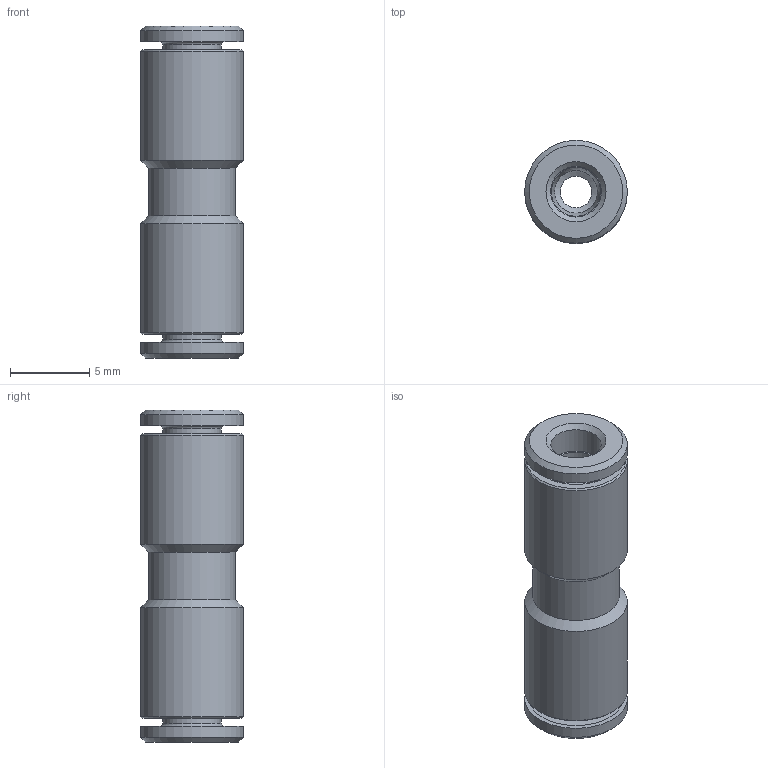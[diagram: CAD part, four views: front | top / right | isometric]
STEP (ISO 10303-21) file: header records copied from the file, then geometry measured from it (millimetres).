
FILE_DESCRIPTION(('Bauteilbeschreibung','HiCAD-Model','HiCAD-STEP-TRANSLATION','Bauteilbeschreibung'),'2;1');
FILE_NAME('B:/ABGLEICH/ZEICHNUNGEN/STEP FÜR INTERNET/STEP/200300_IPSO_03_3_3.STP','2011-07-18T09:03:33+00:00',('Konstrukteur'),('Konstrukteur Firma GmbH'),' HiCAD neXt 2008, Step 3.1.1401.2J ','HiCAD neXt 2008','confidential');
FILE_SCHEMA(('AUTOMOTIVE_DESIGN { 1 2 10303 214 0 1 1 1 }'));
Length unit declared in the file: millimetre
Products named in the file (4): A00300_IPSO_03_3_3; DR3; DR30; R200300_N
Assembly tree (3 placements, depth 2):
  A00300_IPSO_03_3_3
    DR3
    DR30
    R200300_N
Bounding box: 6.5 x 6.5 x 21 mm (x, y, z)
Volume: 368.2 mm3; surface area: 1111 mm2
Topology: 3 solids, 3 shells, 72 faces, 129 edges, 75 vertices
Faces by surface type: cylinder 24, cone 22, plane 18, torus 8
Full cylindrical faces by diameter (mm): 2 x1, 3.1 x4, 3.2 x2, 3.7 x4, 4.9 x2, 5 x4, 5.5 x3, 6.5 x4
Entity records: 1921 total; most frequent: DIRECTION 300, CARTESIAN_POINT 222, AXIS2_PLACEMENT_3D 150, EDGE_LOOP 144, ORIENTED_EDGE 144, COLOUR_RGB 75, PRESENTATION_STYLE_ASSIGNMENT 75, ADVANCED_FACE 72
